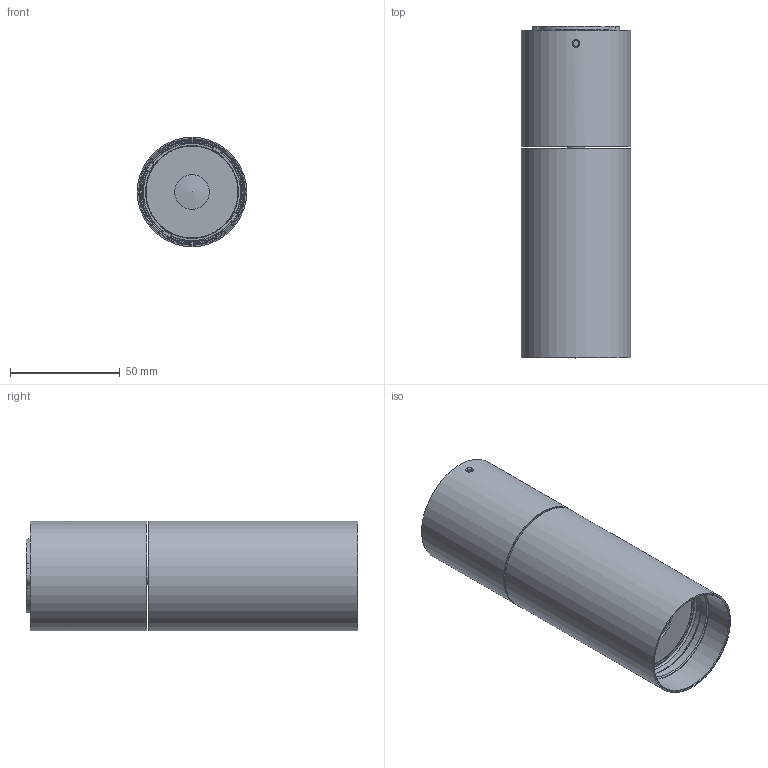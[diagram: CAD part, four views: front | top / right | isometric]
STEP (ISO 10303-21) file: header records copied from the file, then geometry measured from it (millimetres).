
FILE_DESCRIPTION(/* description */ (''),/* implementation_level */ '2;1');
FILE_NAME(/* name */ 'S:\UFFICIO TECNICO 2019\PRODOTTI ROTALIANA\SOUVLAKI\CONFIGURATORE\FILES X CONFIGURATORE\ipt INVENTOR\1SVH4.stp',/* time_stamp */ '2024-03-14T08:45:49+01:00',/* author */ ('mtesta'),/* organization */ (''),/* preprocessor_version */ 'ST-DEVELOPER v18.1',/* originating_system */ 'Autodesk Inventor 2021',/* authorisation */ '');
FILE_SCHEMA (('AUTOMOTIVE_DESIGN { 1 0 10303 214 3 1 1 }'));
Products named in the file (1): 1SVH4
Bounding box: 50 x 151.5 x 50 mm (x, y, z)
Volume: 98289.6 mm3; surface area: 81337.3 mm2
Topology: 14 solids, 14 shells, 1399 faces, 3519 edges, 2132 vertices
Faces by surface type: bspline 406, plane 338, cylinder 258, cone 184, torus 174, sphere 39
Full cylindrical faces by diameter (mm): 1.567 x3, 2.459 x10, 3 x28, 3.2 x6, 3.242 x1, 3.25 x2, 4 x4, 6.5 x2, 8 x2, 15.853 x1, 16.5 x1, 40 x1, 42 x1, 42.026 x1, 46 x1, 46.5 x1, 48 x2, 48.2 x2, 50 x2
Entity records: 65170 total; most frequent: CARTESIAN_POINT 32486, ORIENTED_EDGE 6924, DIRECTION 5851, EDGE_CURVE 3462, AXIS2_PLACEMENT_3D 2414, VERTEX_POINT 2133, EDGE_LOOP 1523, STYLED_ITEM 1413
